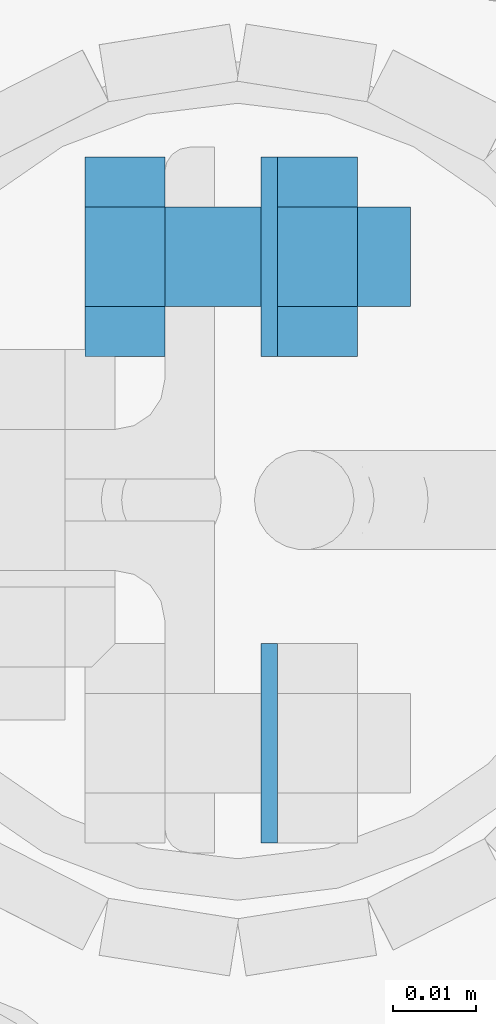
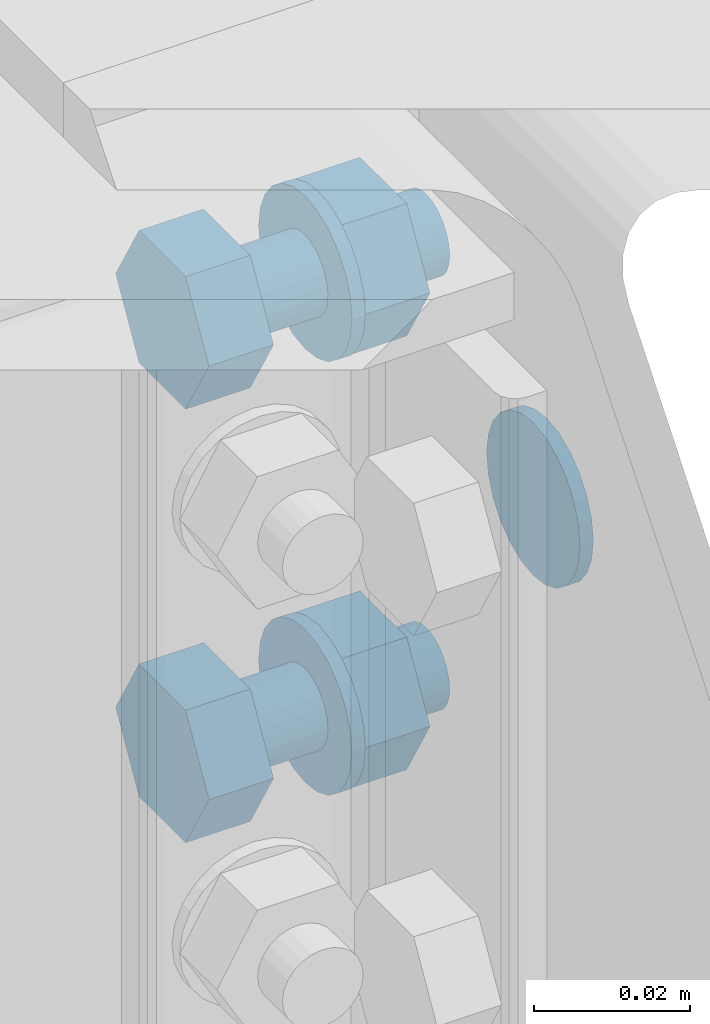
# One storey, part 39 of 84: 9 mechanical fasteners.
"""IFC4 building model written with IfcOpenShell, lengths in metres."""

from ifc_helpers import new_model, si_unit, frame, origin_with_axes, place, context, project, spatial, polyline, outline, extrude, type_object, element, save


model = new_model("IFC4")

# Units and contexts
model_context = context("Model", 3, precision=1e-05, world=origin_with_axes())
ifc_project = project(units=[si_unit("LENGTHUNIT", "METRE"), si_unit("AREAUNIT", "SQUARE_METRE"), si_unit("VOLUMEUNIT", "CUBIC_METRE"), si_unit("MASSUNIT", "GRAM", prefix="KILO"), si_unit("TIMEUNIT", "SECOND"), si_unit("PLANEANGLEUNIT", "RADIAN"), si_unit("SOLIDANGLEUNIT", "STERADIAN"), si_unit("THERMODYNAMICTEMPERATUREUNIT", "DEGREE_CELSIUS")], contexts=[model_context])

# Site, building, storey
placement_1 = place(None, origin_with_axes())
site = spatial("IfcSite", under=ifc_project, at=placement_1, Name="Italia", CompositionType="ELEMENT")
building = spatial("IfcBuilding", under=site, at=placement_1, Name="Tettoia", CompositionType="ELEMENT")
storey_placement = place(None, frame((0.0, 0.0, 4.199999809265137), z_axis=(0.0, 0.0, 1.0), x_axis=(1.0, 0.0, 0.0)))
storey = spatial("IfcBuildingStorey", under=building, at=storey_placement, Name="Storey 1", CompositionType="ELEMENT", Elevation=4.199999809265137)

# Mechanical fasteners
mechanical_fastener_type_1 = type_object("IfcMechanicalFastenerType", Name="Collegamento 0106_0105", PredefinedType="BOLT")
placement_2 = place(placement_1, origin_with_axes())
mechanical_fastener_1_placement = place(placement_2, origin_with_axes())
element("IfcMechanicalFastener", 1, at=mechanical_fastener_1_placement, inside=storey, type_object=mechanical_fastener_type_1, Name="Collegamento 0106_0105", NominalDiameter=0.024, context=model_context, shape_type="SweptSolid", body=[
    extrude(outline(polyline([(0.0, 0.0), (-0.000409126, -0.00310564), (-0.00160789, -0.00600004), (-0.00351477, -0.00848532), (-0.00600004, -0.0103922), (-0.00889444, -0.011591), (-0.0120001, -0.0120001), (-0.0151057, -0.011591), (-0.0180001, -0.0103922), (-0.0204854, -0.00848532), (-0.0223923, -0.00600004), (-0.023591, -0.00310564), (-0.0240002, 0.0), (-0.023591, 0.00310564), (-0.0223923, 0.00600004), (-0.0204854, 0.00848532), (-0.0180001, 0.0103922), (-0.0151057, 0.011591), (-0.0120001, 0.0120001), (-0.00889444, 0.011591), (-0.00600004, 0.0103922), (-0.00351477, 0.00848532), (-0.00160789, 0.00600004), (-0.000409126, 0.00310564), (0.0, 0.0)])), frame((11.2948, 7.2587, 4.334), z_axis=(-1.0, 0.0, 0.0), x_axis=(0.0, -1.0, 0.0)), (0.0, 0.0, 1.0), 0.00199986),
])
mechanical_fastener_type_2 = type_object("IfcMechanicalFastenerType", Name="Collegamento 0106_0105", PredefinedType="BOLT")
mechanical_fastener_2_placement = place(placement_2, origin_with_axes())
element("IfcMechanicalFastener", 2, at=mechanical_fastener_2_placement, inside=storey, type_object=mechanical_fastener_type_2, Name="Collegamento 0106_0105", NominalDiameter=0.0119996, context=model_context, shape_type="SweptSolid", body=[
    extrude(outline(polyline([(0.0, 0.0), (-0.0119996, 0.0), (-0.0179996, 0.0103922), (-0.0119996, 0.0207844), (0.0, 0.0207844), (0.00600004, 0.0103922), (0.0, 0.0)])), frame((11.2716, 7.3353, 4.25561), z_axis=(1.0, 0.0, 0.0), x_axis=(0.0, 1.0, 0.0)), (0.0, 0.0, 1.0), 0.00960064),
])
mechanical_fastener_type_3 = type_object("IfcMechanicalFastenerType", Name="Collegamento 0106_0105", PredefinedType="BOLT")
mechanical_fastener_3_placement = place(placement_2, origin_with_axes())
element("IfcMechanicalFastener", 3, at=mechanical_fastener_3_placement, inside=storey, type_object=mechanical_fastener_type_3, Name="Collegamento 0106_0105", NominalDiameter=0.012, context=model_context, shape_type="SweptSolid", body=[
    extrude(outline(polyline([(0.0, 0.0), (-0.000204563, -0.00155306), (-0.000803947, -0.00299978), (-0.00175762, -0.00424242), (-0.00300026, -0.00519609), (-0.00444698, -0.00579548), (-0.00600004, -0.00600004), (-0.0075531, -0.00579548), (-0.00899982, -0.00519609), (-0.0102425, -0.00424242), (-0.0111961, -0.00299978), (-0.0117955, -0.00155306), (-0.0120001, 0.0), (-0.0117955, 0.00155306), (-0.0111961, 0.00299978), (-0.0102425, 0.00424242), (-0.00899982, 0.00519609), (-0.0075531, 0.00579548), (-0.00600004, 0.00600004), (-0.00444698, 0.00579548), (-0.00300026, 0.00519609), (-0.00175762, 0.00424242), (-0.000803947, 0.00299978), (-0.000204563, 0.00155306), (0.0, 0.0)])), frame((11.2812, 7.3353, 4.266), z_axis=(1.0, 0.0, 0.0), x_axis=(0.0, 1.0, 0.0)), (0.0, 0.0, 1.0), 0.0295992),
])
mechanical_fastener_type_4 = type_object("IfcMechanicalFastenerType", Name="Collegamento 0106_0105", PredefinedType="BOLT")
mechanical_fastener_4_placement = place(placement_2, origin_with_axes())
element("IfcMechanicalFastener", 4, at=mechanical_fastener_4_placement, inside=storey, type_object=mechanical_fastener_type_4, Name="Collegamento 0106_0105", NominalDiameter=0.0119996, context=model_context, shape_type="SweptSolid", body=[
    extrude(outline(polyline([(0.0, 0.0), (-0.0119996, 0.0), (-0.0179996, 0.0103922), (-0.0119996, 0.0207844), (0.0, 0.0207844), (0.00600004, 0.0103922), (0.0, 0.0)])), frame((11.2948, 7.3353, 4.25561), z_axis=(1.0, 0.0, 0.0), x_axis=(0.0, 1.0, 0.0)), (0.0, 0.0, 1.0), 0.00960064),
])
mechanical_fastener_type_5 = type_object("IfcMechanicalFastenerType", Name="Collegamento 0106_0105", PredefinedType="BOLT")
mechanical_fastener_5_placement = place(placement_2, origin_with_axes())
element("IfcMechanicalFastener", 5, at=mechanical_fastener_5_placement, inside=storey, type_object=mechanical_fastener_type_5, Name="Collegamento 0106_0105", NominalDiameter=0.024, context=model_context, shape_type="SweptSolid", body=[
    extrude(outline(polyline([(0.0, 0.0), (-0.000409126, -0.00310564), (-0.00160789, -0.00600004), (-0.00351477, -0.00848532), (-0.00600004, -0.0103922), (-0.00889444, -0.011591), (-0.0120001, -0.0120001), (-0.0151057, -0.011591), (-0.0180001, -0.0103922), (-0.0204854, -0.00848532), (-0.0223923, -0.00600004), (-0.023591, -0.00310564), (-0.0240002, 0.0), (-0.023591, 0.00310564), (-0.0223923, 0.00600004), (-0.0204854, 0.00848532), (-0.0180001, 0.0103922), (-0.0151057, 0.011591), (-0.0120001, 0.0120001), (-0.00889444, 0.011591), (-0.00600004, 0.0103922), (-0.00351477, 0.00848532), (-0.00160789, 0.00600004), (-0.000409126, 0.00310564), (0.0, 0.0)])), frame((11.2928, 7.3413, 4.266), z_axis=(1.0, 0.0, 0.0), x_axis=(0.0, 1.0, 0.0)), (0.0, 0.0, 1.0), 0.00199986),
])
mechanical_fastener_type_6 = type_object("IfcMechanicalFastenerType", Name="Collegamento 0106_0105", PredefinedType="BOLT")
mechanical_fastener_6_placement = place(placement_2, origin_with_axes())
element("IfcMechanicalFastener", 6, at=mechanical_fastener_6_placement, inside=storey, type_object=mechanical_fastener_type_6, Name="Collegamento 0106_0105", NominalDiameter=0.0119996, context=model_context, shape_type="SweptSolid", body=[
    extrude(outline(polyline([(0.0, 0.0), (-0.0119996, 0.0), (-0.0179996, 0.0103922), (-0.0119996, 0.0207844), (0.0, 0.0207844), (0.00600004, 0.0103922), (0.0, 0.0)])), frame((11.2716, 7.3353, 4.32361), z_axis=(1.0, 0.0, 0.0), x_axis=(0.0, 1.0, 0.0)), (0.0, 0.0, 1.0), 0.00960064),
])
mechanical_fastener_type_7 = type_object("IfcMechanicalFastenerType", Name="Collegamento 0106_0105", PredefinedType="BOLT")
mechanical_fastener_7_placement = place(placement_2, origin_with_axes())
element("IfcMechanicalFastener", 7, at=mechanical_fastener_7_placement, inside=storey, type_object=mechanical_fastener_type_7, Name="Collegamento 0106_0105", NominalDiameter=0.012, context=model_context, shape_type="SweptSolid", body=[
    extrude(outline(polyline([(0.0, 0.0), (-0.000204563, -0.00155306), (-0.000803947, -0.00299978), (-0.00175762, -0.00424242), (-0.00300026, -0.00519609), (-0.00444698, -0.00579548), (-0.00600004, -0.00600004), (-0.0075531, -0.00579548), (-0.00899982, -0.00519609), (-0.0102425, -0.00424242), (-0.0111961, -0.00299978), (-0.0117955, -0.00155306), (-0.0120001, 0.0), (-0.0117955, 0.00155306), (-0.0111961, 0.00299978), (-0.0102425, 0.00424242), (-0.00899982, 0.00519609), (-0.0075531, 0.00579548), (-0.00600004, 0.00600004), (-0.00444698, 0.00579548), (-0.00300026, 0.00519609), (-0.00175762, 0.00424242), (-0.000803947, 0.00299978), (-0.000204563, 0.00155306), (0.0, 0.0)])), frame((11.2812, 7.3353, 4.334), z_axis=(1.0, 0.0, 0.0), x_axis=(0.0, 1.0, 0.0)), (0.0, 0.0, 1.0), 0.0295992),
])
mechanical_fastener_type_8 = type_object("IfcMechanicalFastenerType", Name="Collegamento 0106_0105", PredefinedType="BOLT")
mechanical_fastener_8_placement = place(placement_2, origin_with_axes())
element("IfcMechanicalFastener", 8, at=mechanical_fastener_8_placement, inside=storey, type_object=mechanical_fastener_type_8, Name="Collegamento 0106_0105", NominalDiameter=0.0119996, context=model_context, shape_type="SweptSolid", body=[
    extrude(outline(polyline([(0.0, 0.0), (-0.0119996, 0.0), (-0.0179996, 0.0103922), (-0.0119996, 0.0207844), (0.0, 0.0207844), (0.00600004, 0.0103922), (0.0, 0.0)])), frame((11.2948, 7.3353, 4.32361), z_axis=(1.0, 0.0, 0.0), x_axis=(0.0, 1.0, 0.0)), (0.0, 0.0, 1.0), 0.00960064),
])
mechanical_fastener_type_9 = type_object("IfcMechanicalFastenerType", Name="Collegamento 0106_0105", PredefinedType="BOLT")
mechanical_fastener_9_placement = place(placement_2, origin_with_axes())
element("IfcMechanicalFastener", 9, at=mechanical_fastener_9_placement, inside=storey, type_object=mechanical_fastener_type_9, Name="Collegamento 0106_0105", NominalDiameter=0.024, context=model_context, shape_type="SweptSolid", body=[
    extrude(outline(polyline([(0.0, 0.0), (-0.000409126, -0.00310564), (-0.00160789, -0.00600004), (-0.00351477, -0.00848532), (-0.00600004, -0.0103922), (-0.00889444, -0.011591), (-0.0120001, -0.0120001), (-0.0151057, -0.011591), (-0.0180001, -0.0103922), (-0.0204854, -0.00848532), (-0.0223923, -0.00600004), (-0.023591, -0.00310564), (-0.0240002, 0.0), (-0.023591, 0.00310564), (-0.0223923, 0.00600004), (-0.0204854, 0.00848532), (-0.0180001, 0.0103922), (-0.0151057, 0.011591), (-0.0120001, 0.0120001), (-0.00889444, 0.011591), (-0.00600004, 0.0103922), (-0.00351477, 0.00848532), (-0.00160789, 0.00600004), (-0.000409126, 0.00310564), (0.0, 0.0)])), frame((11.2928, 7.3413, 4.334), z_axis=(1.0, 0.0, 0.0), x_axis=(0.0, 1.0, 0.0)), (0.0, 0.0, 1.0), 0.00199986),
])

save(model, "model.ifc")
